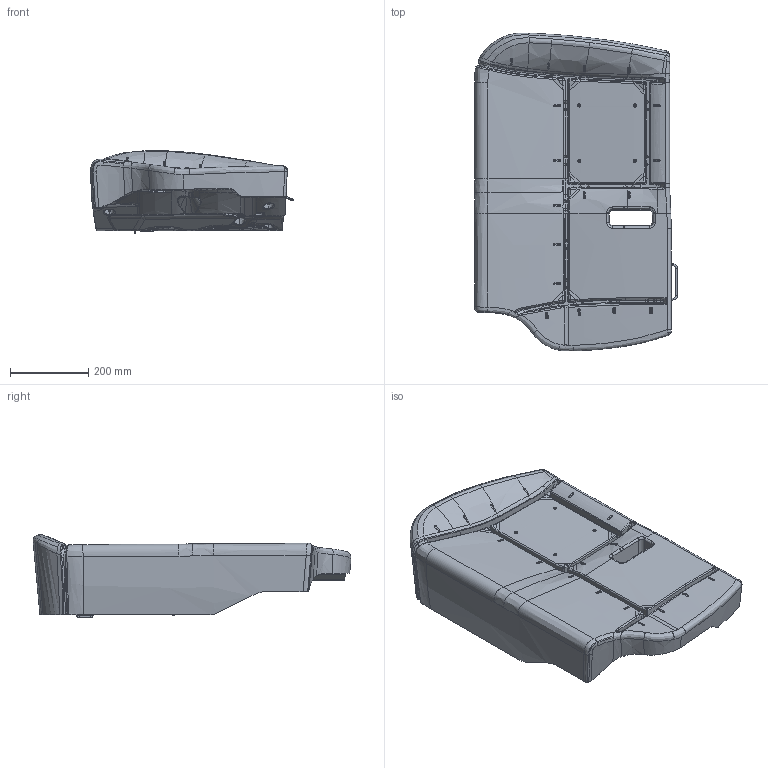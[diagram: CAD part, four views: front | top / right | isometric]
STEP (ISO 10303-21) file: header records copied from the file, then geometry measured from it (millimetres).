
FILE_DESCRIPTION(('CATIA V5 STEP Exchange'),'2;1');
FILE_NAME('E:\SGM\项目工作\9月份\06-钢丝修改-张磊\SLT0010612-0920.stp','2022-09-20T08:51:57+00:00',('none'),('none'),'CATIA Version 5 Release 20 GA (IN-10)','CATIA V5 STEP AP203 Edition 2','none');
FILE_SCHEMA(('AP203_CONFIGURATION_CONTROLLED_3D_DESIGN_OF_MECHANICAL_PARTS_AND_ASSEMBLIES_MIM_LF { 1 0 10303 403 2 1 2}'));
Products named in the file (1): SLT0010614_AllCATPart
Bounding box: 517.93 x 812.01 x 211.34 mm (x, y, z)
Volume: 44787036.1 mm3; surface area: 1295000.4 mm2
Topology: 10 solids, 11 shells, 3789 faces, 10534 edges, 6476 vertices
Faces by surface type: plane 1644, bspline 1364, sphere 339, cylinder 278, torus 120, extrusion 30, revolution 12, cone 2
Entity records: 294522 total; most frequent: CARTESIAN_POINT 214591, ORIENTED_EDGE 20372, EDGE_CURVE 10188, DIRECTION 10011, VERTEX_POINT 6474, VECTOR 4728, LINE 4698, B_SPLINE_CURVE_WITH_KNOTS 4548
